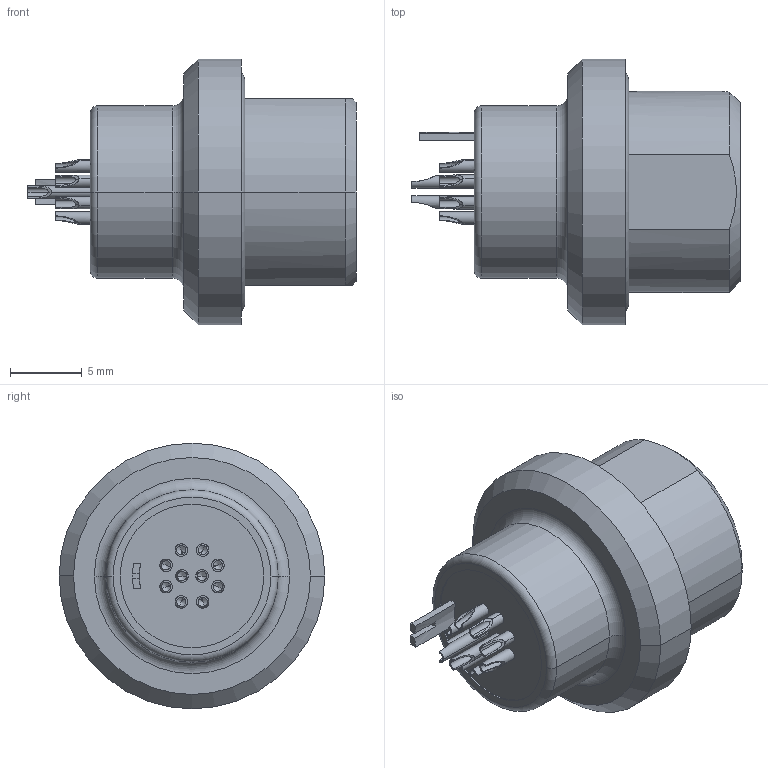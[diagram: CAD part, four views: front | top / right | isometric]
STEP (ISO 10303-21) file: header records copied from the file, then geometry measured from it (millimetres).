
FILE_DESCRIPTION((''),'2;1');
FILE_NAME('00051365-A_ASM','2020-10-27T07:23:07',('EUnterhaslberger'),(''),'CREO PARAMETRIC BY PTC INC, 2018300','CREO PARAMETRIC BY PTC INC, 2018300','');
FILE_SCHEMA(('AP242_MANAGED_MODEL_BASED_3D_ENGINEERING_MIM_LF { 1 0 10303 442 1 1 4 }'));
Length unit declared in the file: millimetre
Products named in the file (4): TEMP_SW_STEP_MONOBLOCK_1_1; TEMP_SW_STEP_MONOBLOCK_1_2; TEMP_SW_STEP_MONOBLOCK_1_ASM; 00051365-A_ASM
Assembly tree (3 placements, depth 3):
  00051365-A_ASM
    TEMP_SW_STEP_MONOBLOCK_1_ASM
      TEMP_SW_STEP_MONOBLOCK_1_1
      TEMP_SW_STEP_MONOBLOCK_1_2
Bounding box: 22.85 x 18.5 x 18.5 mm (x, y, z)
Volume: 2307.3 mm3; surface area: 2321.7 mm2
Topology: 2 solids, 2 shells, 292 faces, 712 edges, 434 vertices
Faces by surface type: cylinder 137, plane 69, cone 36, torus 29, sphere 21
Entity records: 11451 total; most frequent: CARTESIAN_POINT 2250, DIRECTION 1586, ORIENTED_EDGE 1344, EDGE_CURVE 672, AXIS2_PLACEMENT_3D 669, VERTEX_POINT 434, CIRCLE 368, EDGE_LOOP 344
